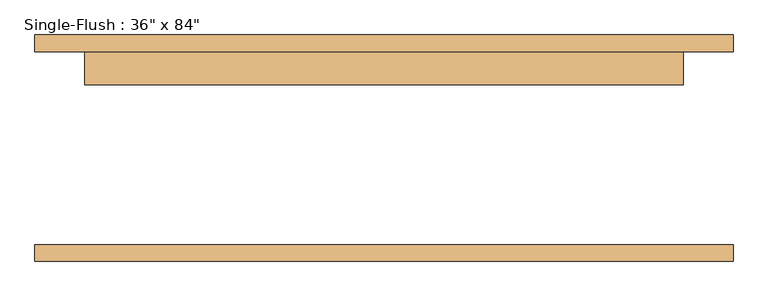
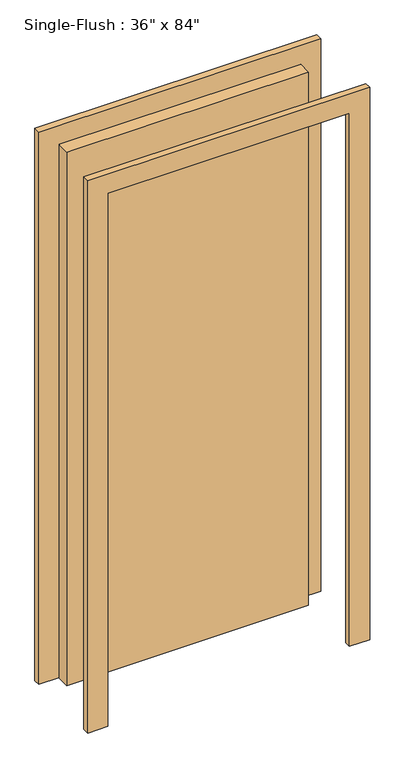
"""IFC4 building model written with IfcOpenShell, lengths in millimetres: door geometry."""

import ifcopenshell
import ifcopenshell.guid

model = None  # the IFC model being written
_history = None  # IfcOwnerHistory: only IFC2X3 demands one
_inside = {}  # id of a spatial element -> (the spatial element, [elements in it])
_under = {}  # id of a project, library or spatial element -> (it, [spatial elements below it])
_declared = {}  # id of a project -> (the project, [libraries it declares])
_typed = {}  # id of a type object -> (the type object, [elements of that type])
_made_of = {}  # id of a material, layer set ... -> (it, [elements and type objects made of it])


def new_model(schema):
    """Start an empty IFC model of exactly this schema.

    Asked for "IFC4X3", IfcOpenShell would pick the latest addendum, in which some entities
    have other attributes; the version numbers below select the first issue.
    IFC2X3 requires an IfcOwnerHistory on every rooted entity: one is made here for all.
    """
    global model, _history
    if schema == "IFC4X3":
        model = ifcopenshell.file(schema_version=(4, 3, 0, 0))
    else:
        model = ifcopenshell.file(schema=schema)
    _inside.clear()
    _under.clear()
    _declared.clear()
    _typed.clear()
    _made_of.clear()
    _history = None
    if model.schema == "IFC2X3":
        org = make("IfcOrganization", Name="unknown")
        user = make(
            "IfcPersonAndOrganization",
            ThePerson=make("IfcPerson", FamilyName="unknown"),
            TheOrganization=org,
        )
        app = make(
            "IfcApplication",
            ApplicationDeveloper=org,
            Version="unknown",
            ApplicationFullName="unknown",
            ApplicationIdentifier="unknown",
        )
        _history = make(
            "IfcOwnerHistory",
            OwningUser=user,
            OwningApplication=app,
            ChangeAction="ADDED",
            CreationDate=0,
        )
    return model


def make(cls, **values):
    """One entity of the class cls with the attributes given. An attribute that is None is left unset."""
    return model.create_entity(
        cls, **{name: value for name, value in values.items() if value is not None}
    )


def rooted(cls, **values):
    """An entity with a GlobalId (a new one), such as an element, a storey or a relation."""
    return make(cls, GlobalId=ifcopenshell.guid.new(), OwnerHistory=_history, **values)


def si_unit(unit_type, name, prefix=None):
    """IfcSIUnit, for example si_unit("LENGTHUNIT", "METRE", prefix="MILLI")."""
    return make("IfcSIUnit", UnitType=unit_type, Prefix=prefix, Name=name)


def assignment(units):
    """IfcUnitAssignment: the units of a project."""
    return None if units is None else make("IfcUnitAssignment", Units=units)


def point(xyz):
    """IfcCartesianPoint."""
    return None if xyz is None else make("IfcCartesianPoint", Coordinates=xyz)


def direction(xyz):
    """IfcDirection."""
    return None if xyz is None else make("IfcDirection", DirectionRatios=xyz)


def frame(location, z_axis=None, x_axis=None):
    """IfcAxis2Placement3D, a coordinate frame: its origin and axes. An axis left out is left unset."""
    return make(
        "IfcAxis2Placement3D",
        Location=point(location),
        Axis=direction(z_axis),
        RefDirection=direction(x_axis),
    )


def origin():
    """The frame at (0, 0, 0) with its axes left unset."""
    return frame((0.0, 0.0, 0.0))


def origin_with_axes():
    """The frame at (0, 0, 0) with the z axis (0, 0, 1) and the x axis (1, 0, 0) written out."""
    return frame((0.0, 0.0, 0.0), z_axis=(0.0, 0.0, 1.0), x_axis=(1.0, 0.0, 0.0))


def place(relative_to, where):
    """IfcLocalPlacement: puts the frame where relative to a parent placement (None: the world)."""
    return make(
        "IfcLocalPlacement", PlacementRelTo=relative_to, RelativePlacement=where
    )


def context(
    kind, dimensions, precision=None, world=None, true_north=None, identifier=None
):
    """IfcGeometricRepresentationContext, for example the 3D "Model" context."""
    return make(
        "IfcGeometricRepresentationContext",
        ContextIdentifier=identifier,
        ContextType=kind,
        CoordinateSpaceDimension=dimensions,
        Precision=precision,
        WorldCoordinateSystem=world,
        TrueNorth=true_north,
    )


def project(units=None, contexts=None):
    """IfcProject with its units and contexts."""
    return rooted(
        "IfcProject",
        Name="project",
        RepresentationContexts=contexts,
        UnitsInContext=assignment(units),
    )


def spatial(cls, under=None, at=None, **own):
    """A site, building, storey or space (cls), placed at a placement, below another one or the project."""
    s = rooted(cls, ObjectPlacement=at, **own)
    if under is not None:
        _under.setdefault(under.id(), (under, []))[1].append(s)
    return s


def polyline(points):
    """IfcPolyline through the points."""
    return make("IfcPolyline", Points=[point(p) for p in points])


def outline(outer, holes=None, kind="AREA"):
    """IfcArbitraryClosedProfileDef: a profile drawn as a closed curve; with holes, ...WithVoids."""
    if holes is None:
        return make("IfcArbitraryClosedProfileDef", ProfileType=kind, OuterCurve=outer)
    return make(
        "IfcArbitraryProfileDefWithVoids",
        ProfileType=kind,
        OuterCurve=outer,
        InnerCurves=holes,
    )


def extrude(swept, where, along, depth):
    """IfcExtrudedAreaSolid: the profile swept, set in the frame where, extruded along a direction by depth."""
    return make(
        "IfcExtrudedAreaSolid",
        SweptArea=swept,
        Position=where,
        ExtrudedDirection=direction(along),
        Depth=depth,
    )


def shape(context_of_items, identifier, shape_type, items):
    """IfcShapeRepresentation: the items that make up one representation, for example the "Body"."""
    return make(
        "IfcShapeRepresentation",
        ContextOfItems=context_of_items,
        RepresentationIdentifier=identifier,
        RepresentationType=shape_type,
        Items=items,
    )


def source(mapping_origin, context_of_items, identifier, shape_type, items):
    """IfcRepresentationMap: a shape defined once, which mapped items show again and again."""
    return make(
        "IfcRepresentationMap",
        MappingOrigin=mapping_origin,
        MappedRepresentation=shape(context_of_items, identifier, shape_type, items),
    )


def transform(
    local_origin,
    x_axis=None,
    y_axis=None,
    z_axis=None,
    scale=None,
    scale2=None,
    scale3=None,
    uniform=True,
):
    """IfcCartesianTransformationOperator3D, or its non-uniform kind. x_axis, y_axis, z_axis: its Axis1, 2, 3."""
    if uniform:
        return make(
            "IfcCartesianTransformationOperator3D",
            Axis1=direction(x_axis),
            Axis2=direction(y_axis),
            LocalOrigin=point(local_origin),
            Scale=scale,
            Axis3=direction(z_axis),
        )
    return make(
        "IfcCartesianTransformationOperator3DnonUniform",
        Axis1=direction(x_axis),
        Axis2=direction(y_axis),
        LocalOrigin=point(local_origin),
        Scale=scale,
        Axis3=direction(z_axis),
        Scale2=scale2,
        Scale3=scale3,
    )


def mapped(mapping_source, mapping_target):
    """IfcMappedItem: shows the shape of a source again, moved by a transform."""
    return make(
        "IfcMappedItem", MappingSource=mapping_source, MappingTarget=mapping_target
    )


def made_of(thing, what):
    """Note that an element or type object is made of a material, layer set ...; save() writes the relation."""
    if what is not None:
        _made_of.setdefault(what.id(), (what, []))[1].append(thing)
    return thing


def element(
    cls,
    number,
    at=None,
    inside=None,
    cuts=None,
    type_object=None,
    material=None,
    context=None,
    identifier="Body",
    shape_type=None,
    held_by="IfcProductDefinitionShape",
    body=None,
    shapes=None,
    **own,
):
    """One element of the class cls, such as IfcWall. Its Tag is "e" and its number.

    at: its placement. inside: the storey or other place that contains it. cuts: it is an
    opening in that element (IfcRelVoidsElement). A single representation is given by context,
    identifier, shape_type and body (its items); several are given by shapes. held_by: the class
    of the entity that holds the representations. save() writes the other relations.
    """
    e = rooted(cls, Tag="e%d" % number, ObjectPlacement=at, **own)
    if body is not None:
        shapes = [shape(context, identifier, shape_type, body)]
    if shapes is not None:
        e.Representation = make(held_by, Representations=shapes)
    if inside is not None:
        _inside.setdefault(inside.id(), (inside, []))[1].append(e)
    if cuts is not None:
        rooted(
            "IfcRelVoidsElement", RelatingBuildingElement=cuts, RelatedOpeningElement=e
        )
    if type_object is not None:
        _typed.setdefault(type_object.id(), (type_object, []))[1].append(e)
    return made_of(e, material)


def aggregate(whole, parts):
    """IfcRelAggregates: a whole, such as a stair, and the parts it consists of."""
    return rooted("IfcRelAggregates", RelatingObject=whole, RelatedObjects=parts)


def save(model, path):
    """Write the relations noted so far, then the file.

    IfcRelAggregates (storeys below a building ...), IfcRelContainedInSpatialStructure (elements
    in a storey), IfcRelDefinesByType, IfcRelAssociatesMaterial and IfcRelDeclares: one each for
    every whole, place, type object, material and project.
    """
    for whole, parts in _under.values():
        aggregate(whole, parts)
    for where, things in _inside.values():
        rooted(
            "IfcRelContainedInSpatialStructure",
            RelatedElements=things,
            RelatingStructure=where,
        )
    for kind, things in _typed.values():
        rooted("IfcRelDefinesByType", RelatedObjects=things, RelatingType=kind)
    for what, things in _made_of.values():
        rooted("IfcRelAssociatesMaterial", RelatedObjects=things, RelatingMaterial=what)
    for by, libraries in _declared.values():
        rooted("IfcRelDeclares", RelatingContext=by, RelatedDefinitions=libraries)
    model.write(path)


def door_7b231ec9(model_context):
    return source(origin(), model_context, "Body", "SweptSolid", [
        extrude(outline(polyline([(2209.8, -533.4), (0.0, -533.4), (0.0, -457.2), (2133.6, -457.2), (2133.6, 457.2), (0.0, 457.2), (0.0, 533.4), (2209.8, 533.4), (2209.8, -533.4)])), frame((0.0, 147.6375, 0.0), z_axis=(0.0, 1.0, 0.0), x_axis=(0.0, 0.0, 1.0)), (0.0, 0.0, 1.0), 25.4),
        extrude(outline(polyline([(2209.8, 533.4), (2209.8, -533.4), (0.0, -533.4), (0.0, -457.2), (2133.6, -457.2), (2133.6, 457.2), (0.0, 457.2), (0.0, 533.4), (2209.8, 533.4)])), frame((0.0, -173.0375, 0.0), z_axis=(0.0, 1.0, 0.0), x_axis=(0.0, 0.0, 1.0)), (0.0, 0.0, 1.0), 25.4),
        extrude(outline(polyline([(457.2, 96.8375), (-457.2, 96.8375), (-457.2, 147.6375), (457.2, 147.6375), (457.2, 96.8375)])), origin_with_axes(), (0.0, 0.0, 1.0), 2133.6),
    ])


if __name__ == "__main__":
    model = new_model("IFC4")
    model_context = context("Model", 3, world=origin())
    ifc_project = project(units=[si_unit("LENGTHUNIT", "METRE", prefix="MILLI")], contexts=[model_context])
    site = spatial("IfcSite", under=ifc_project)
    building = spatial("IfcBuilding", under=site)
    placement = place(None, origin())
    door_shape = door_7b231ec9(model_context)
    element("IfcDoor", 1, ObjectType="Single-Flush : 36\" x 84\"", at=placement, inside=building, context=model_context, shape_type="MappedRepresentation", body=[
        mapped(door_shape, transform((0.0, 0.0, 0.0), x_axis=(1.0, 0.0, 0.0), y_axis=(0.0, 1.0, 0.0), z_axis=(0.0, 0.0, 1.0))),
    ])
    save(model, "model.ifc")
